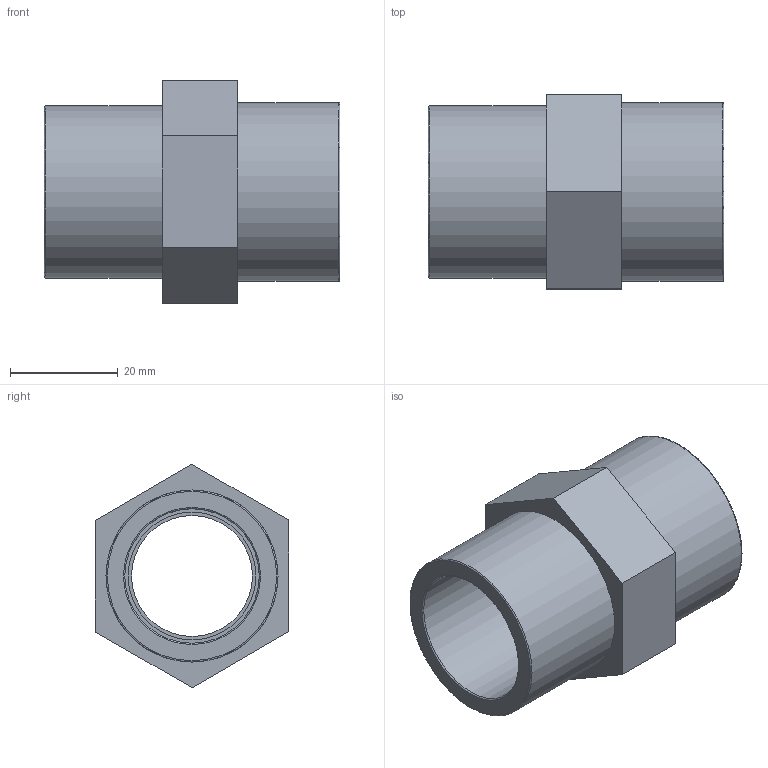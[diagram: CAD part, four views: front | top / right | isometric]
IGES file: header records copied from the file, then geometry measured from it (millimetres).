
Global section: file name: 050602032010.ipt; native system: Autodesk Inventor 2015; preprocessor: unknown; author: KIM; date: 20180927.115338; units: millimetre
Bounding box: 55 x 36.07 x 41.57 mm (x, y, z)
Volume: 25658.9 mm3; surface area: 11442.5 mm2
Topology: 1 solids, 1 shells, 21 faces, 55 edges, 40 vertices
Faces by surface type: plane 12, revolution 7, cylinder 2
Full cylindrical faces by diameter (mm): 32 x1, 33.249 x1
